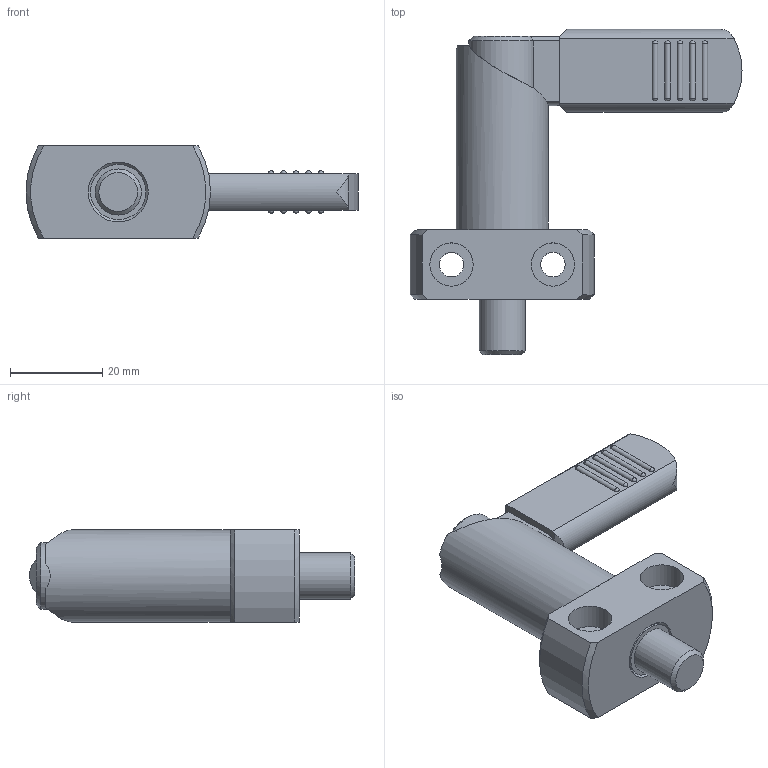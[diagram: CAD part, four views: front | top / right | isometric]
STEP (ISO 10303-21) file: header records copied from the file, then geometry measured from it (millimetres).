
FILE_DESCRIPTION( ( 'STEP AP203' ), '1' );
FILE_NAME( 'C:/Temp/Ganter_Step_05_03_2020/data/3_1/gn612_2/Indexing plunger GN 612.2-10-20-B (deactivated).stp', '2020-03-12T08:35:13', ( 'License CC BY-ND 4.0' ), ( 'CADENAS' ), ' ', 'PARTsolutions', ' ' );
FILE_SCHEMA( ( 'CONFIG_CONTROL_DESIGN' ) );
Length unit declared in the file: millimetre
Products named in the file (3): Indexing plunger GN 612.2-10-20-B (deactivated); _Rastriegel GN 612.2-10-20-B (unbetaetigt)-a; _Rastriegel GN 612.2-10-20-B (unbetaetigt)-b
Assembly tree (2 placements, depth 2):
  Indexing plunger GN 612.2-10-20-B (deactivated)
    _Rastriegel GN 612.2-10-20-B (unbetaetigt)-a
    _Rastriegel GN 612.2-10-20-B (unbetaetigt)-b
Bounding box: 72 x 70.5 x 20 mm (x, y, z)
Volume: 27021.8 mm3; surface area: 12869 mm2
Topology: 2 solids, 2 shells, 103 faces, 265 edges, 166 vertices
Faces by surface type: cylinder 43, plane 30, sphere 20, cone 9, torus 1
Full cylindrical faces by diameter (mm): 5.3 x2, 8 x2, 8.9 x1, 9.1 x1, 9.4 x4, 10 x1, 12 x2, 14.5 x1, 16 x1, 20 x1
Entity records: 3103 total; most frequent: CARTESIAN_POINT 790, DIRECTION 475, ORIENTED_EDGE 406, AXIS2_PLACEMENT_3D 205, EDGE_CURVE 203, EDGE_LOOP 149, VERTEX_POINT 144, FACE_OUTER_BOUND 119
